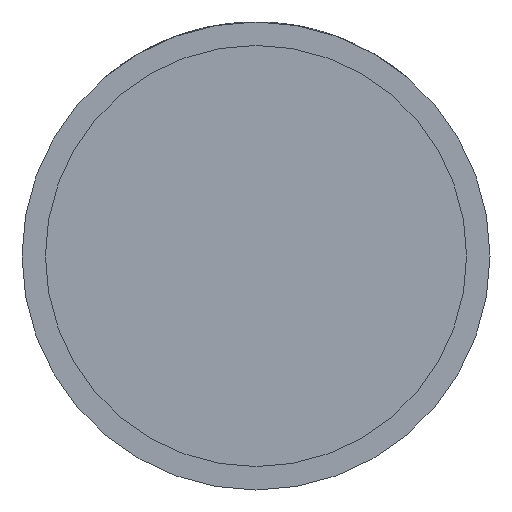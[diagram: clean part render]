
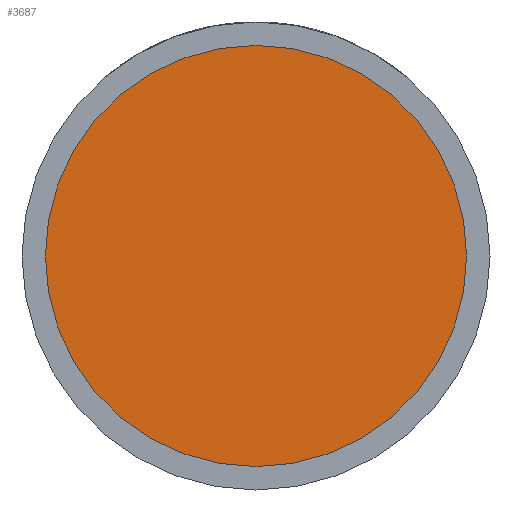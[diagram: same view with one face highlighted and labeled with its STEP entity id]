
A CAD part, front view. The second image highlights one B-rep face of the part: STEP entity #3687.
In plain terms, the highlighted planar face has unit normal (0, -1, 0).
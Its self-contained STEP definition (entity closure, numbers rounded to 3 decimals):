
#309 = DIRECTION ( 'NONE',  ( 1., 0., 0. ) ) ;
#634 = AXIS2_PLACEMENT_3D ( 'NONE', #3410, #2784, #879 ) ;
#642 = ORIENTED_EDGE ( 'NONE', *, *, #2534, .T. ) ;
#839 = AXIS2_PLACEMENT_3D ( 'NONE', #2948, #1269, #309 ) ;
#879 = DIRECTION ( 'NONE',  ( 1., 0., 0. ) ) ;
#885 = VERTEX_POINT ( 'NONE', #2739 ) ;
#895 = EDGE_CURVE ( 'NONE', #885, #3671, #2451, .T. ) ;
#1221 = EDGE_LOOP ( 'NONE', ( #1802, #642 ) ) ;
#1269 = DIRECTION ( 'NONE',  ( 0., -1., 0. ) ) ;
#1312 = FACE_OUTER_BOUND ( 'NONE', #1221, .T. ) ;
#1396 = CARTESIAN_POINT ( 'NONE',  ( 0., -15., 0. ) ) ;
#1802 = ORIENTED_EDGE ( 'NONE', *, *, #895, .T. ) ;
#1968 = CARTESIAN_POINT ( 'NONE',  ( -13.5, -15., 0. ) ) ;
#2051 = DIRECTION ( 'NONE',  ( 1., 0., 0. ) ) ;
#2451 = CIRCLE ( 'NONE', #634, 13.5 ) ;
#2534 = EDGE_CURVE ( 'NONE', #3671, #885, #2971, .T. ) ;
#2575 = PLANE ( 'NONE',  #839 ) ;
#2739 = CARTESIAN_POINT ( 'NONE',  ( 13.5, -15., 0. ) ) ;
#2784 = DIRECTION ( 'NONE',  ( 0., -1., 0. ) ) ;
#2948 = CARTESIAN_POINT ( 'NONE',  ( 13.5, -15., 0. ) ) ;
#2971 = CIRCLE ( 'NONE', #3037, 13.5 ) ;
#3037 = AXIS2_PLACEMENT_3D ( 'NONE', #1396, #3975, #2051 ) ;
#3410 = CARTESIAN_POINT ( 'NONE',  ( 0., -15., 0. ) ) ;
#3671 = VERTEX_POINT ( 'NONE', #1968 ) ;
#3687 = ADVANCED_FACE ( 'NONE', ( #1312 ), #2575, .T. ) ;
#3975 = DIRECTION ( 'NONE',  ( 0., -1., 0. ) ) ;
